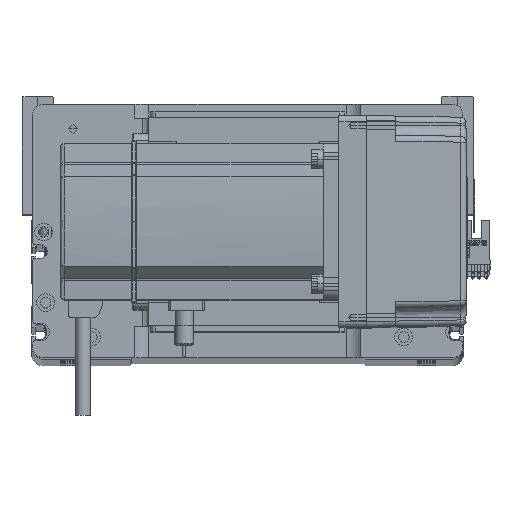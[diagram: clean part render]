
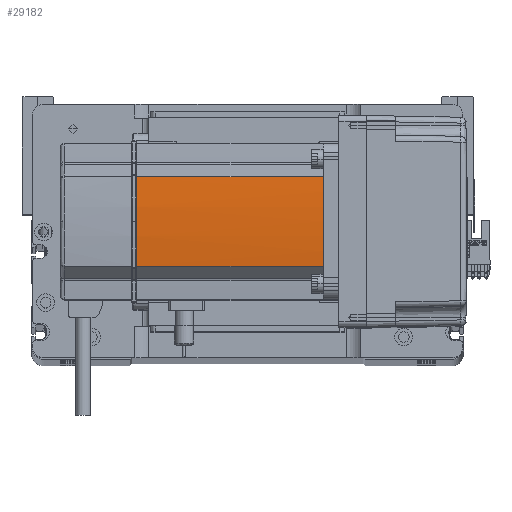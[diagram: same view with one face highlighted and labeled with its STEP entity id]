
A CAD part, top view. The second image highlights one B-rep face of the part: STEP entity #29182.
In plain terms, the highlighted cylindrical face has radius 270 mm (diameter 540 mm), a partial arc.
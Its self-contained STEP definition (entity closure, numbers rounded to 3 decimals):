
#805 = ORIENTED_EDGE ( 'NONE', *, *, #34170, .T. ) ;
#1886 = CARTESIAN_POINT ( 'NONE',  ( 230., 0., 39. ) ) ;
#3243 = EDGE_CURVE ( 'NONE', #52434, #41623, #18634, .T. ) ;
#4251 = CARTESIAN_POINT ( 'NONE',  ( 230., 0., 0. ) ) ;
#6710 = CYLINDRICAL_SURFACE ( 'NONE', #13031, 270. ) ;
#7778 = DIRECTION ( 'NONE',  ( 1., 0., 0. ) ) ;
#9991 = DIRECTION ( 'NONE',  ( 0., 0., -1. ) ) ;
#11296 = AXIS2_PLACEMENT_3D ( 'NONE', #34096, #42647, #12527 ) ;
#12009 = DIRECTION ( 'NONE',  ( 0., 0., 1. ) ) ;
#12527 = DIRECTION ( 'NONE',  ( 1., 0., 0. ) ) ;
#12835 = LINE ( 'NONE', #19743, #34605 ) ;
#12997 = DIRECTION ( 'NONE',  ( 1., 0., 0. ) ) ;
#13031 = AXIS2_PLACEMENT_3D ( 'NONE', #4251, #12009, #7778 ) ;
#13728 = CARTESIAN_POINT ( 'NONE',  ( 230., 0., 134. ) ) ;
#14718 = ORIENTED_EDGE ( 'NONE', *, *, #32343, .T. ) ;
#18634 = CIRCLE ( 'NONE', #11296, 270. ) ;
#19371 = DIRECTION ( 'NONE',  ( 0., 0., 1. ) ) ;
#19743 = CARTESIAN_POINT ( 'NONE',  ( -39.042, -22.724, 0. ) ) ;
#20715 = AXIS2_PLACEMENT_3D ( 'NONE', #13728, #34775, #12997 ) ;
#23036 = ORIENTED_EDGE ( 'NONE', *, *, #52933, .T. ) ;
#24973 = CIRCLE ( 'NONE', #29214, 270. ) ;
#25329 = CARTESIAN_POINT ( 'NONE',  ( -40., 0., 134. ) ) ;
#28499 = DIRECTION ( 'NONE',  ( 0., 0., -1. ) ) ;
#29182 = ADVANCED_FACE ( 'NONE', ( #34455 ), #6710, .T. ) ;
#29214 = AXIS2_PLACEMENT_3D ( 'NONE', #1886, #9991, #53074 ) ;
#30547 = EDGE_CURVE ( 'NONE', #32706, #49163, #24973, .T. ) ;
#31895 = EDGE_LOOP ( 'NONE', ( #23036, #41273, #805, #39151, #14718 ) ) ;
#32343 = EDGE_CURVE ( 'NONE', #32706, #45533, #12835, .T. ) ;
#32706 = VERTEX_POINT ( 'NONE', #49516 ) ;
#34096 = CARTESIAN_POINT ( 'NONE',  ( 230., 0., 134. ) ) ;
#34170 = EDGE_CURVE ( 'NONE', #41623, #49163, #36468, .T. ) ;
#34455 = FACE_OUTER_BOUND ( 'NONE', #31895, .T. ) ;
#34605 = VECTOR ( 'NONE', #19371, 1000. ) ;
#34775 = DIRECTION ( 'NONE',  ( 0., 0., -1. ) ) ;
#36468 = LINE ( 'NONE', #37721, #52424 ) ;
#37028 = CARTESIAN_POINT ( 'NONE',  ( -39.042, 22.724, 134. ) ) ;
#37721 = CARTESIAN_POINT ( 'NONE',  ( -39.042, 22.724, 0. ) ) ;
#39151 = ORIENTED_EDGE ( 'NONE', *, *, #30547, .F. ) ;
#39340 = CARTESIAN_POINT ( 'NONE',  ( -39.042, 22.724, 39. ) ) ;
#41273 = ORIENTED_EDGE ( 'NONE', *, *, #3243, .T. ) ;
#41569 = CIRCLE ( 'NONE', #20715, 270. ) ;
#41623 = VERTEX_POINT ( 'NONE', #37028 ) ;
#42647 = DIRECTION ( 'NONE',  ( 0., 0., -1. ) ) ;
#45090 = CARTESIAN_POINT ( 'NONE',  ( -39.042, -22.724, 134. ) ) ;
#45533 = VERTEX_POINT ( 'NONE', #45090 ) ;
#49163 = VERTEX_POINT ( 'NONE', #39340 ) ;
#49516 = CARTESIAN_POINT ( 'NONE',  ( -39.042, -22.724, 39. ) ) ;
#52424 = VECTOR ( 'NONE', #28499, 1000. ) ;
#52434 = VERTEX_POINT ( 'NONE', #25329 ) ;
#52933 = EDGE_CURVE ( 'NONE', #45533, #52434, #41569, .T. ) ;
#53074 = DIRECTION ( 'NONE',  ( 1., 0., 0. ) ) ;
